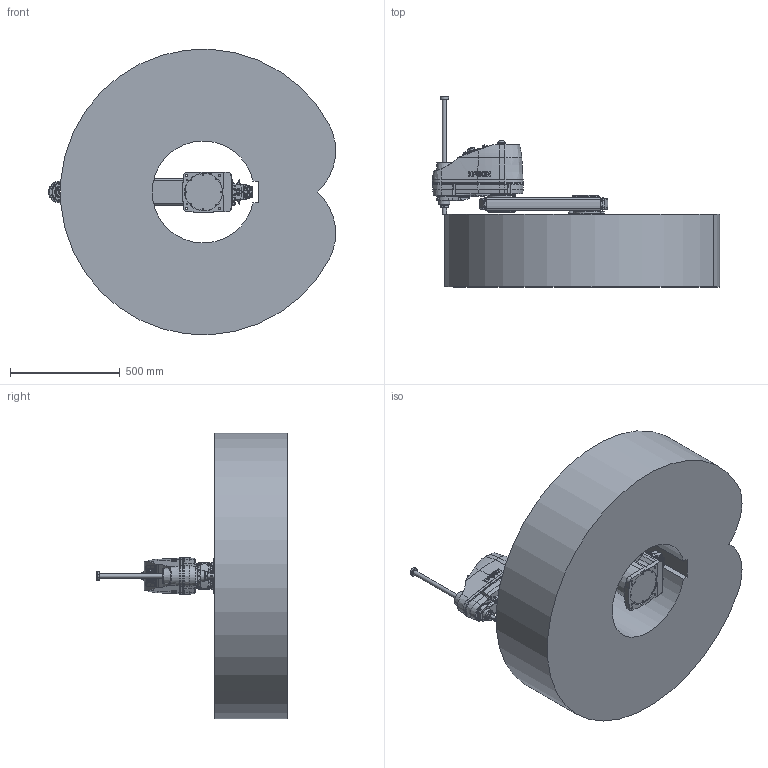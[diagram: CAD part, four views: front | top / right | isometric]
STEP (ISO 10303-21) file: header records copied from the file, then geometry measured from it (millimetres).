
FILE_DESCRIPTION( ( 'STEP AP214' ), '1' );
FILE_NAME( 'C:/Users/9607552/Desktop/GX8-B653S_langle.stp', '2023-07-07T02:54:12', ( '' ), ( '' ), ' ', 'PARTsolutions', ' ' );
FILE_SCHEMA( ( 'AUTOMOTIVE_DESIGN { 1 0 10303 214 1 1 1 1 }' ) );
Length unit declared in the file: millimetre
Products named in the file (9): GX8-B653SA-W; _B452S_BASE; _B652S; _B652S_1; _B652S_2; _B452S_J2; _B453SZA; _Angle-B; _GX8-25-1-B_WS
Assembly tree (10 placements, depth 2):
  GX8-B653SA-W
    _B452S_BASE
    _B652S
    _B652S_1  x2
    _B652S_2  x2
    _B452S_J2
    _B453SZA
    _Angle-B
    _GX8-25-1-B_WS
Bounding box: 1308.1 x 865 x 1298.02 mm (x, y, z)
Volume: 396417037.6 mm3; surface area: 5253899.6 mm2
Topology: 10 solids, 10 shells, 2857 faces, 6969 edges, 4547 vertices
Faces by surface type: plane 1440, cylinder 922, cone 333, torus 119, bspline 37, sphere 6
Full cylindrical faces by diameter (mm): 1 x48, 1.18 x55, 2.261 x4, 2.459 x12, 3 x32, 3.242 x18, 3.3 x5, 3.9 x4, 4 x4, 4.2 x8, 4.5 x4, 4.8 x4, 5.34 x4, 5.5 x17, 6 x1, 6.2 x4, 6.647 x4, 6.8 x2, 7 x48, 8 x5, 8.5 x4, 9 x24, 10 x18, 11 x4, 11.2 x5, 11.5 x1, 12 x5, 12.25 x1, 13 x3, 13.2 x12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
Entity records: 101913 total; most frequent: CARTESIAN_POINT 19292, DIRECTION 12595, ORIENTED_EDGE 11602, EDGE_CURVE 5801, AXIS2_PLACEMENT_3D 4838, VERTEX_POINT 4181, EDGE_LOOP 3785, FACE_OUTER_BOUND 3147
